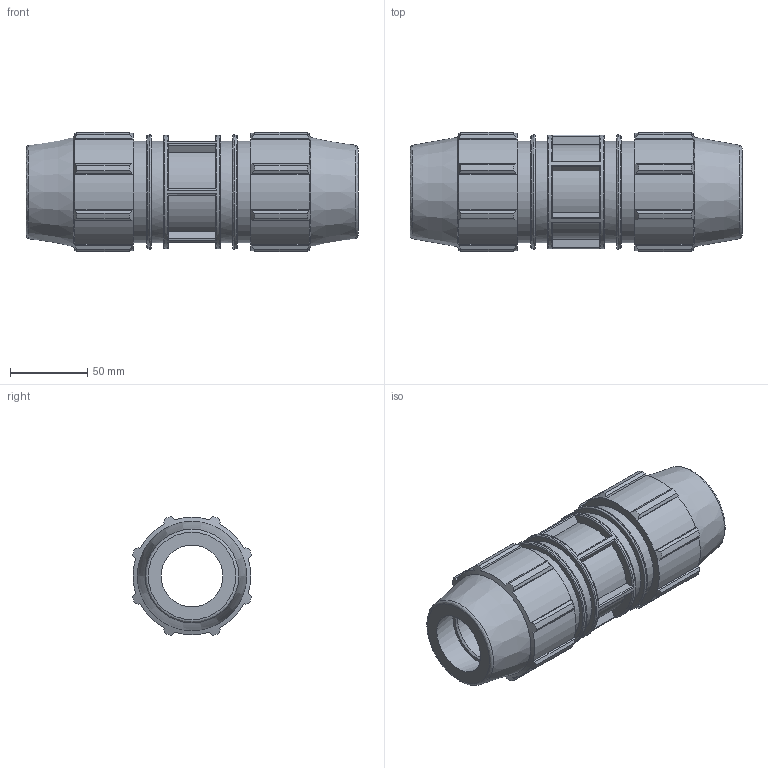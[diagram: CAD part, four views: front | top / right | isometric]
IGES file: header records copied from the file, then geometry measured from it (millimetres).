
Global section: file name: 076100040_186100040_0761060400A.ipt; native system: Autodesk Inventor 2015; preprocessor: unknown; author: KIM; date: 20180617.114131; units: millimetre
Bounding box: 215 x 77.16 x 77.16 mm (x, y, z)
Volume: 551487.2 mm3; surface area: 93311 mm2
Topology: 1 solids, 1 shells, 202 faces, 567 edges, 382 vertices
Faces by surface type: plane 100, cylinder 55, revolution 25, cone 22
Full cylindrical faces by diameter (mm): 65.6 x4, 73.8 x1
